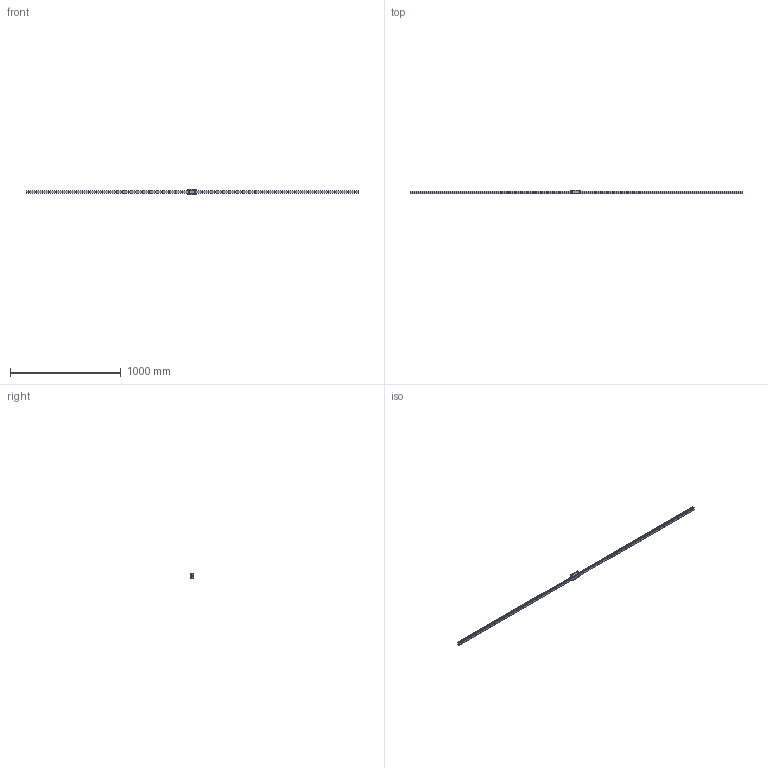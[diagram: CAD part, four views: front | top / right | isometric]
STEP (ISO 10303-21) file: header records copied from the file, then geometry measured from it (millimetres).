
FILE_DESCRIPTION(/* description */ ('STEP AP214'),/* implementation_level */ '2;1');
FILE_NAME(/* name */ 'HDR25V1SS-3000L_G30_0_B-M6F_1456-2_0_0_01',/* time_stamp */ '2023-06-30T13:00:26+02:00',/* author */ ('License CC BY-ND 4.0'),/* organization */ ('CADENAS'),/* preprocessor_version */ 'ST-DEVELOPER v19.3',/* originating_system */ 'PARTsolutions',/* authorisation */ ' ');
FILE_SCHEMA (('AUTOMOTIVE_DESIGN {1 0 10303 214 3 1 1}'));
Length unit declared in the file: millimetre
Products named in the file (4): HDR25V1SS-3000L_G30_0_B-M6F_1456-2_0_0_01; hsr_ftht_B-M6F_grease_nipple_joint; HDR25VSSB-M6F1 Slider; HDR25V1300030 Rail
Assembly tree (3 placements, depth 2):
  HDR25V1SS-3000L_G30_0_B-M6F_1456-2_0_0_01
    hsr_ftht_B-M6F_grease_nipple_joint
    HDR25VSSB-M6F1 Slider
    HDR25V1300030 Rail
Bounding box: 3000 x 36 x 48 mm (x, y, z)
Volume: 1373239.6 mm3; surface area: 344524.1 mm2
Topology: 3 solids, 3 shells, 372 faces, 898 edges, 587 vertices
Faces by surface type: cylinder 172, plane 170, cone 25, sphere 3, torus 2
Full cylindrical faces by diameter (mm): 4.917 x8, 5.2 x4, 6 x1, 7 x50, 8 x1, 11 x50
Entity records: 10503 total; most frequent: DIRECTION 1846, CARTESIAN_POINT 1803, ORIENTED_EDGE 1492, AXIS2_PLACEMENT_3D 748, EDGE_CURVE 746, FACE_BOUND 673, EDGE_LOOP 665, VERTEX_POINT 581
